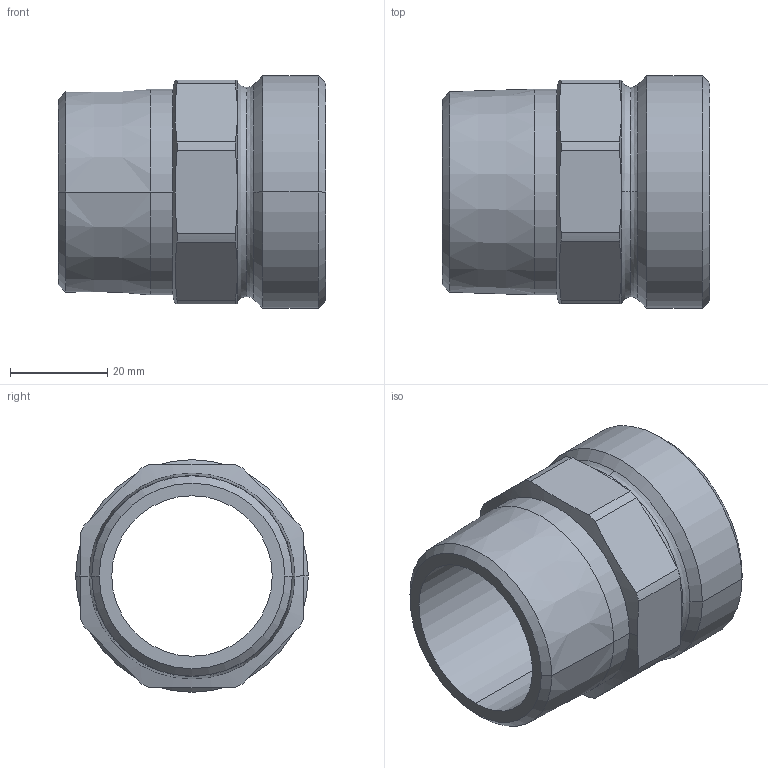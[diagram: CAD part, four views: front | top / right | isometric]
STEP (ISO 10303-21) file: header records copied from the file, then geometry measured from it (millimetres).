
FILE_DESCRIPTION((''),'2;1');
FILE_NAME('G:\BIR\Pajchrowski\projekty\8000 models\4376g\4376g STEP\14376_114-112.stp','2006-04-28T11:33:04',('pajchrowski'),(''),'Autodesk Inventor 8','Autodesk Inventor 8','');
FILE_SCHEMA(('AUTOMOTIVE_DESIGN { 1 0 10303 214 1 1 1 1 }'));
Length unit declared in the file: millimetre
Products named in the file (1): 14376_114-112
Bounding box: 55 x 47.8 x 47.8 mm (x, y, z)
Volume: 39479 mm3; surface area: 15195.7 mm2
Topology: 1 solids, 1 shells, 40 faces, 102 edges, 64 vertices
Faces by surface type: cylinder 14, cone 12, plane 10, bspline 4
Entity records: 1385 total; most frequent: CARTESIAN_POINT 423, DIRECTION 204, ORIENTED_EDGE 204, EDGE_CURVE 102, AXIS2_PLACEMENT_3D 85, VERTEX_POINT 64, CIRCLE 48, EDGE_LOOP 42
